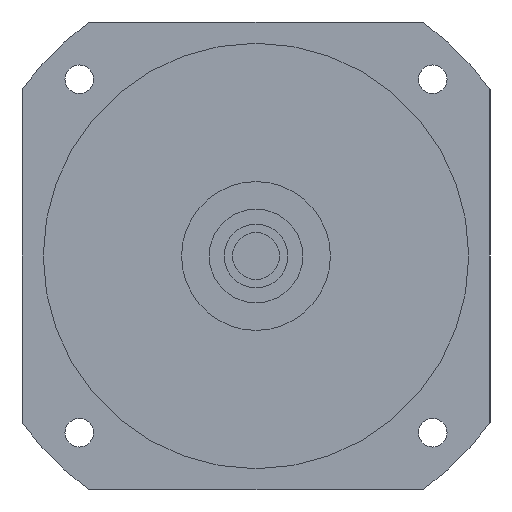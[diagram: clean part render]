
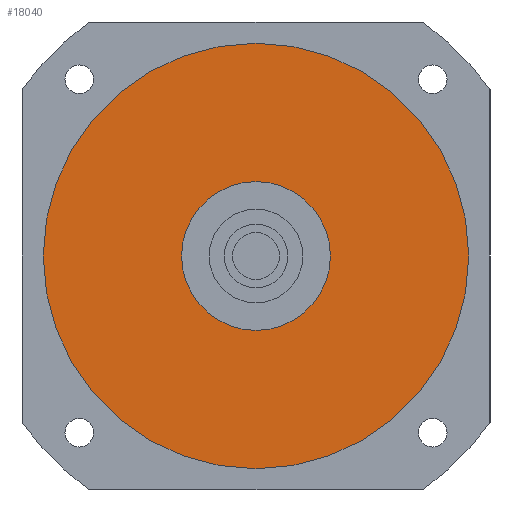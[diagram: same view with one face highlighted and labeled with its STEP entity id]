
A CAD part, left-side view. The second image highlights one B-rep face of the part: STEP entity #18040.
In plain terms, the highlighted planar face has unit normal (-1, 0, 0) as drawn and (0, 0, -1) by its records, which use the part's own axes.
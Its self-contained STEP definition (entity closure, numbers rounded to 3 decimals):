
#17460=CARTESIAN_POINT('',(100.,0.,-54.7));
#17470=VERTEX_POINT('',#17460);
#17560=CARTESIAN_POINT('',(-100.,0.,-54.7));
#17570=VERTEX_POINT('',#17560);
#17600=CARTESIAN_POINT('',(0.,0.,
-54.7));
#17610=DIRECTION('',(0.,0.,1.));
#17620=DIRECTION('',(0.,1.,0.));
#17630=AXIS2_PLACEMENT_3D('',#17600,#17610,#17620);
#17640=CIRCLE('',#17630,100.);
#17650=CARTESIAN_POINT('',(0.,100.,-54.7));
#17660=VERTEX_POINT('',#17650);
#17670=EDGE_CURVE('',#17660,#17570,#17640,.T.);
#17690=EDGE_CURVE('',#17470,#17660,#17640,.T.);
#17740=CARTESIAN_POINT('',(0.,0.,
-54.7));
#17750=DIRECTION('',(0.,0.,1.));
#17760=DIRECTION('',(-1.,0.,0.));
#17770=AXIS2_PLACEMENT_3D('',#17740,#17750,#17760);
#17780=PLANE('',#17770);
#17790=CARTESIAN_POINT('',(0.,0.,
-54.7));
#17800=DIRECTION('',(0.,0.,1.));
#17810=DIRECTION('',(0.,1.,0.));
#17820=AXIS2_PLACEMENT_3D('',#17790,#17800,#17810);
#17830=CIRCLE('',#17820,35.);
#17840=CARTESIAN_POINT('',(-35.,0.,-54.7));
#17850=VERTEX_POINT('',#17840);
#17860=CARTESIAN_POINT('',(35.,0.,-54.7));
#17870=VERTEX_POINT('',#17860);
#17880=EDGE_CURVE('',#17850,#17870,#17830,.T.);
#17890=ORIENTED_EDGE('',*,*,#17880,.T.);
#17900=CARTESIAN_POINT('',(0.,35.,-54.7));
#17910=VERTEX_POINT('',#17900);
#17920=EDGE_CURVE('',#17910,#17850,#17830,.T.);
#17930=ORIENTED_EDGE('',*,*,#17920,.T.);
#17940=EDGE_CURVE('',#17870,#17910,#17830,.T.);
#17950=ORIENTED_EDGE('',*,*,#17940,.T.);
#17960=EDGE_LOOP('',(#17950,#17930,#17890));
#17970=FACE_BOUND('',#17960,.T.);
#17980=ORIENTED_EDGE('',*,*,#17670,.F.);
#17990=EDGE_CURVE('',#17570,#17470,#17640,.T.);
#18000=ORIENTED_EDGE('',*,*,#17990,.F.);
#18010=ORIENTED_EDGE('',*,*,#17690,.F.);
#18020=EDGE_LOOP('',(#18010,#18000,#17980));
#18030=FACE_OUTER_BOUND('',#18020,.T.);
#18040=ADVANCED_FACE('',(#17970,#18030),#17780,.F.);
